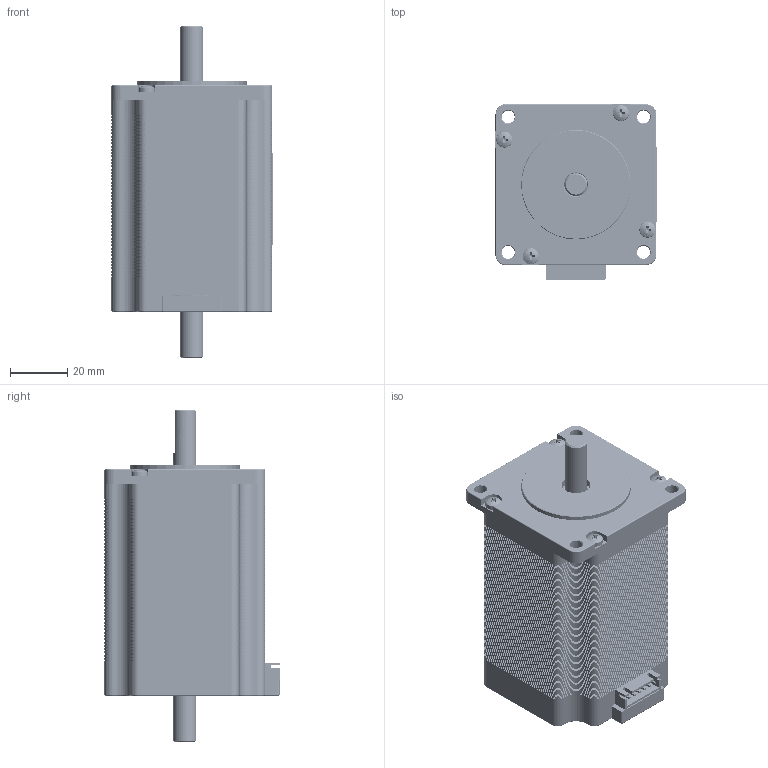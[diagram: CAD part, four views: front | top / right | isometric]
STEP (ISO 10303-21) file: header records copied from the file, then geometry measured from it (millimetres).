
FILE_DESCRIPTION (( 'STEP AP203' ), '1' );
FILE_NAME ('A16K-G268W.STEP', '2020-07-20T04:33:42', ( 'HP' ), ( '' ), 'SwSTEP 2.0', 'SolidWorks 2018', '' );
FILE_SCHEMA (( 'CONFIG_CONTROL_DESIGN' ));
Products named in the file (1): A16K-G268W
Bounding box: 56.1 x 61 x 115.6 mm (x, y, z)
Volume: 224290 mm3; surface area: 43168.9 mm2
Topology: 1 solids, 9 shells, 6434 faces, 18445 edges, 12153 vertices
Faces by surface type: plane 3417, cylinder 2878, cone 67, torus 36, bspline 26, sphere 10
Entity records: 211761 total; most frequent: CARTESIAN_POINT 37607, DIRECTION 37138, ORIENTED_EDGE 36870, EDGE_CURVE 18435, AXIS2_PLACEMENT_3D 12402, VECTOR 12334, LINE 12334, VERTEX_POINT 12153
